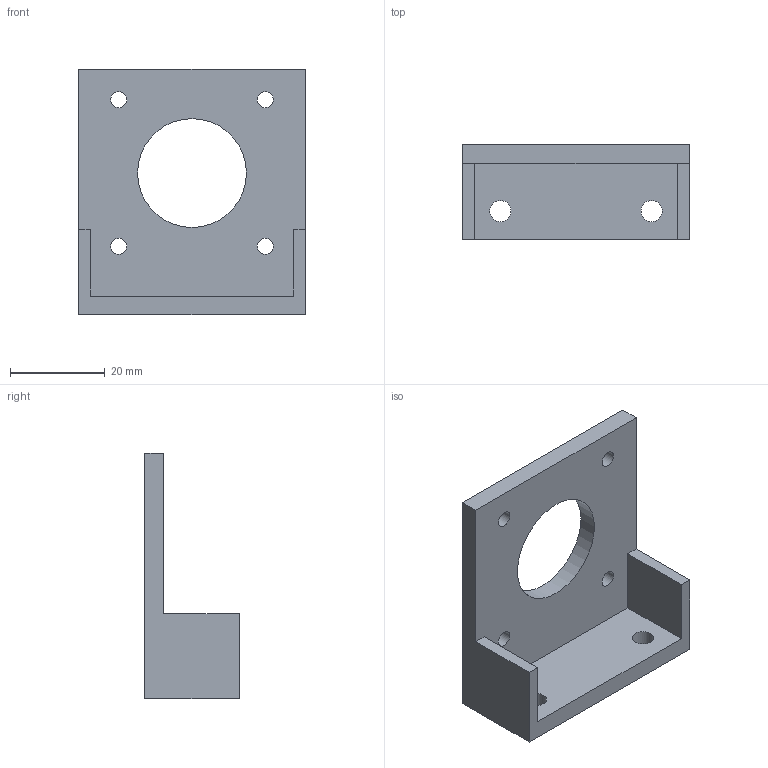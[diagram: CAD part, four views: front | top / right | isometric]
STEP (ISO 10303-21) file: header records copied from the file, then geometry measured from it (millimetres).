
FILE_DESCRIPTION(('Open CASCADE Model'),'2;1');
FILE_NAME('Open CASCADE Shape Model','2026-10-06T19:56:10',('Author'),( 'Open CASCADE'),'Open CASCADE STEP processor 7.9','Open CASCADE 7.9' ,'Unknown');
FILE_SCHEMA(('AUTOMOTIVE_DESIGN { 1 0 10303 214 1 1 1 1 }'));
Length unit declared in the file: millimetre
Products named in the file (1): Open CASCADE STEP translator 7.9 42
Bounding box: 48 x 20 x 52 mm (x, y, z)
Volume: 12241.6 mm3; surface area: 7957.8 mm2
Topology: 1 solids, 1 shells, 19 faces, 51 edges, 34 vertices
Faces by surface type: plane 12, cylinder 7
Full cylindrical faces by diameter (mm): 3.4 x4, 4.5 x2, 23 x1
Entity records: 1310 total; most frequent: CARTESIAN_POINT 233, DIRECTION 201, LINE 123, VECTOR 123, ORIENTED_EDGE 102, PCURVE 102, DEFINITIONAL_REPRESENTATION 102, EDGE_CURVE 51
